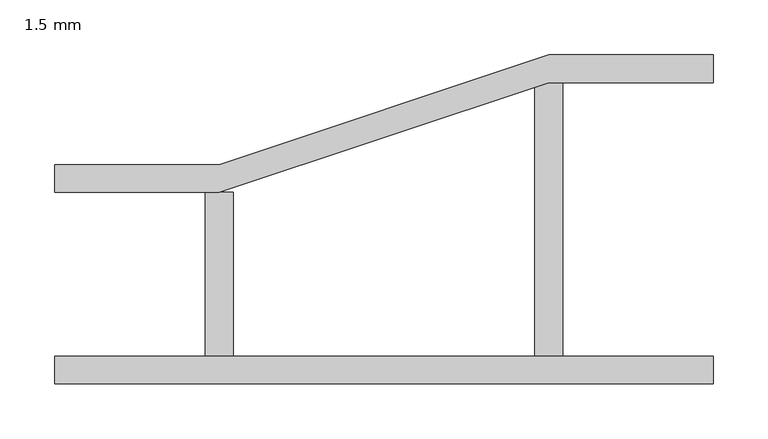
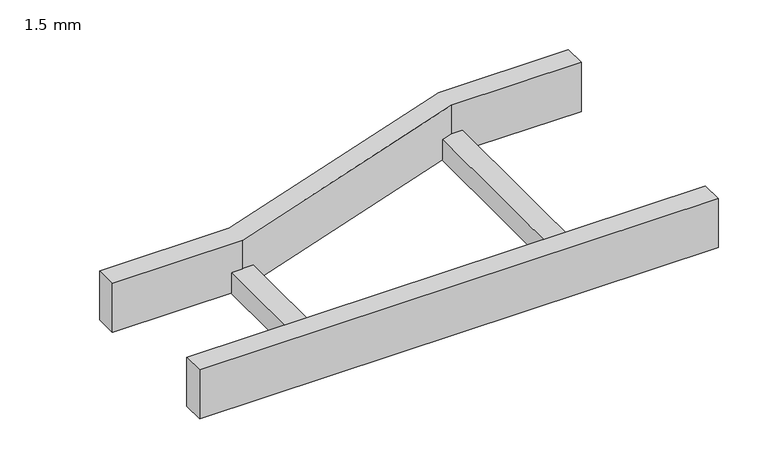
"""IFC4 building model written with IfcOpenShell, lengths in millimetres: cable carrier fitting geometry, BAKS_Redukcja_drabiny E90 : 1.5 mm."""

from ifc_helpers import new_model, si_unit, frame, origin, place, context, project, spatial, polyline, outline, extrude, source, transform, mapped, element, save


def cable_carrier_fitting_1_5_mm_0168b917(model_context):
    return source(origin(), model_context, "Body", "SweptSolid", [
        extrude(outline(polyline([(0.0, -100.0), (0.0, -74.6), (600.0, -74.6), (600.0, -100.0), (0.0, -100.0)])), frame((0.0, 0.0, -30.0), z_axis=(0.0, 0.0, 1.0), x_axis=(1.0, 0.0, 0.0)), (0.0, 0.0, 1.0), 60.0),
        extrude(outline(polyline([(0.0, 74.6), (0.0, 100.0), (150.0, 100.0), (450.0, 200.0), (600.0, 200.0), (600.0, 174.6), (450.0, 174.6), (150.0, 74.6), (0.0, 74.6)])), frame((0.0, 0.0, -30.0), z_axis=(0.0, 0.0, 1.0), x_axis=(1.0, 0.0, 0.0)), (0.0, 0.0, 1.0), 60.0),
        extrude(outline(polyline([(437.3, 174.6), (462.7, 174.6), (462.7, -74.6), (437.3, -74.6), (437.3, 174.6)])), frame((0.0, 0.0, -30.0), z_axis=(0.0, 0.0, 1.0), x_axis=(1.0, 0.0, 0.0)), (0.0, 0.0, 1.0), 25.4),
        extrude(outline(polyline([(137.3, 74.6), (162.7, 74.6), (162.7, -74.6), (137.3, -74.6), (137.3, 74.6)])), frame((0.0, 0.0, -30.0), z_axis=(0.0, 0.0, 1.0), x_axis=(1.0, 0.0, 0.0)), (0.0, 0.0, 1.0), 25.4),
    ])


if __name__ == "__main__":
    model = new_model("IFC4")
    model_context = context("Model", 3, world=origin())
    ifc_project = project(units=[si_unit("LENGTHUNIT", "METRE", prefix="MILLI")], contexts=[model_context])
    site = spatial("IfcSite", under=ifc_project)
    building = spatial("IfcBuilding", under=site)
    placement = place(None, origin())
    cable_carrier_fitting_1_5_mm_shape = cable_carrier_fitting_1_5_mm_0168b917(model_context)
    element("IfcCableCarrierFitting", 1, ObjectType="BAKS_Redukcja_drabiny E90 : 1.5 mm", at=placement, inside=building, context=model_context, shape_type="MappedRepresentation", body=[
        mapped(cable_carrier_fitting_1_5_mm_shape, transform((0.0, 0.0, 0.0), x_axis=(1.0, 0.0, 0.0), y_axis=(0.0, 1.0, 0.0), z_axis=(0.0, 0.0, 1.0))),
    ])
    save(model, "model.ifc")
